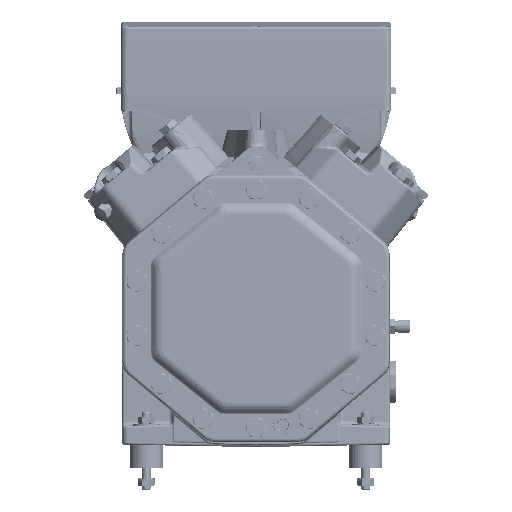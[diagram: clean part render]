
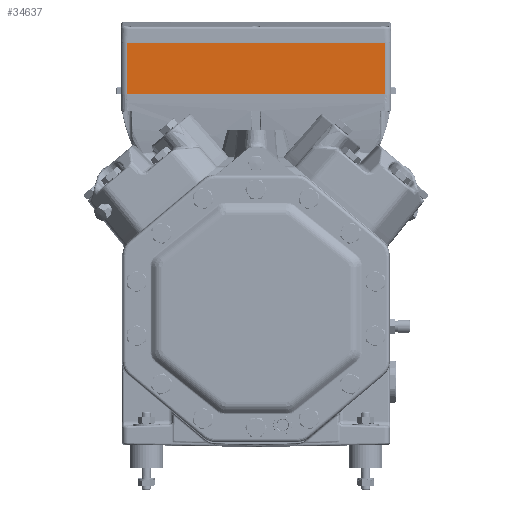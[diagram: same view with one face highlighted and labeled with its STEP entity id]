
A CAD part, left-side view. The second image highlights one B-rep face of the part: STEP entity #34637.
In plain terms, the highlighted planar face has unit normal (-1, 0, 0) as drawn and (1, 0, 0) by its records, which use the part's own axes.
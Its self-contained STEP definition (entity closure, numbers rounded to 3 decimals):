
#16443=FACE_OUTER_BOUND('',#42672,.T.);
#21103=PLANE('',#102981);
#24115=LINE('',#157111,#28857);
#24215=LINE('',#157741,#28957);
#24216=LINE('',#157744,#28958);
#24217=LINE('',#157745,#28959);
#28857=VECTOR('',#114817,1.);
#28957=VECTOR('',#115101,1.);
#28958=VECTOR('',#115102,1.);
#28959=VECTOR('',#115103,1.);
#34637=ADVANCED_FACE('',(#16443),#21103,.T.);
#42672=EDGE_LOOP('',(#55903,#55904,#55905,#55906));
#55903=ORIENTED_EDGE('',*,*,#88389,.F.);
#55904=ORIENTED_EDGE('',*,*,#88390,.T.);
#55905=ORIENTED_EDGE('',*,*,#88193,.T.);
#55906=ORIENTED_EDGE('',*,*,#88391,.T.);
#77983=VERTEX_POINT('',#157110);
#77984=VERTEX_POINT('',#157112);
#78162=VERTEX_POINT('',#157742);
#78163=VERTEX_POINT('',#157743);
#88193=EDGE_CURVE('',#77984,#77983,#24115,.T.);
#88389=EDGE_CURVE('',#78162,#78163,#24215,.T.);
#88390=EDGE_CURVE('',#78162,#77984,#24216,.T.);
#88391=EDGE_CURVE('',#77983,#78163,#24217,.T.);
#102981=AXIS2_PLACEMENT_3D('',#157746,#115104,#115105);
#114817=DIRECTION('',(0.,1.,0.));
#115101=DIRECTION('',(0.,1.,0.));
#115102=DIRECTION('',(0.,0.,-1.));
#115103=DIRECTION('',(0.,0.,1.));
#115104=DIRECTION('',(1.,0.,0.));
#115105=DIRECTION('',(0.,0.,1.));
#157110=CARTESIAN_POINT('',(73.,116.,66.));
#157111=CARTESIAN_POINT('',(73.,0.,66.));
#157112=CARTESIAN_POINT('',(73.,-116.,66.));
#157741=CARTESIAN_POINT('',(73.,0.,111.5));
#157742=CARTESIAN_POINT('',(73.,-116.,111.5));
#157743=CARTESIAN_POINT('',(73.,116.,111.5));
#157744=CARTESIAN_POINT('',(73.,-116.,114.));
#157745=CARTESIAN_POINT('',(73.,116.,114.));
#157746=CARTESIAN_POINT('',(73.,0.,114.));
